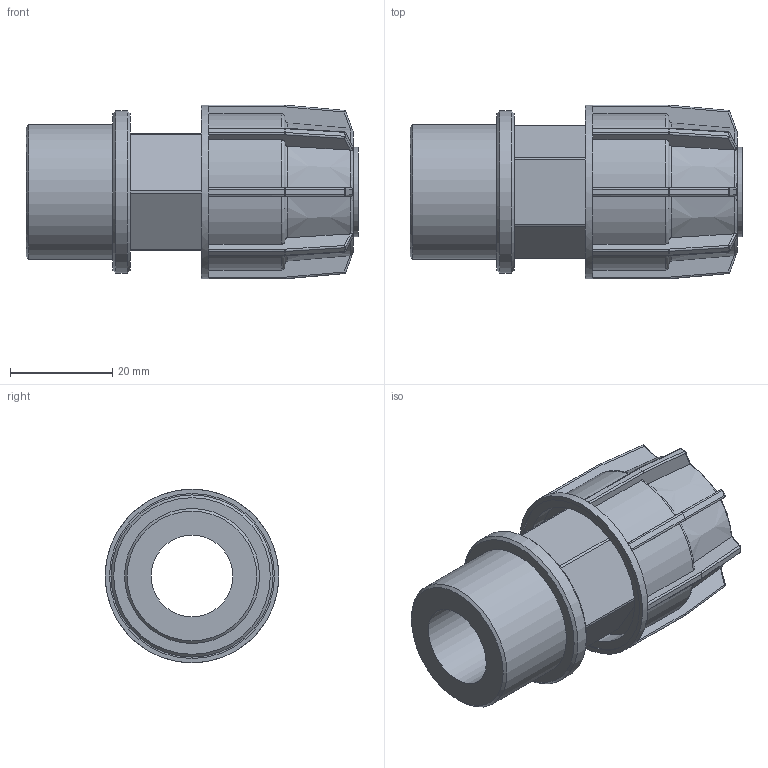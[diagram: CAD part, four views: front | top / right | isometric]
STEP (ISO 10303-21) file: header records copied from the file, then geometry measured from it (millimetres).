
FILE_DESCRIPTION(/* description */ ('PLASSON IRRIFIT ADAPTOR 16-3/4"M'),/* implementation_level */ '2;1');
FILE_NAME(/* name */ 'C:\Dropbox\KIMPROJECTS-Inventor\99-16-3568-Processing\Silver+MF ISRAEL\040207\040207016007.ipt.stp',/* time_stamp */ '2018-04-09T12:59:36+03:00',/* author */ ('KIM'),/* organization */ (''),/* preprocessor_version */ 'ST-DEVELOPER v15.6',/* originating_system */ 'Autodesk Inventor 2015',/* authorisation */ '');
FILE_SCHEMA (('AUTOMOTIVE_DESIGN { 1 0 10303 214 3 1 1 }'));
Length unit declared in the file: millimetre
Products named in the file (1): 040207016007
Bounding box: 65 x 34 x 34 mm (x, y, z)
Volume: 24963.7 mm3; surface area: 12441.2 mm2
Topology: 1 solids, 1 shells, 281 faces, 668 edges, 388 vertices
Faces by surface type: plane 141, cylinder 80, sphere 32, torus 17, cone 11
Full cylindrical faces by diameter (mm): 16 x1, 17.6 x1, 19.2 x1, 26.441 x1, 28.9 x1, 31.729 x1, 32.3 x1, 34 x1
Entity records: 8322 total; most frequent: CARTESIAN_POINT 2138, DIRECTION 1292, ORIENTED_EDGE 1276, EDGE_CURVE 638, AXIS2_PLACEMENT_3D 508, VERTEX_POINT 378, EDGE_LOOP 302, FACE_OUTER_BOUND 281
